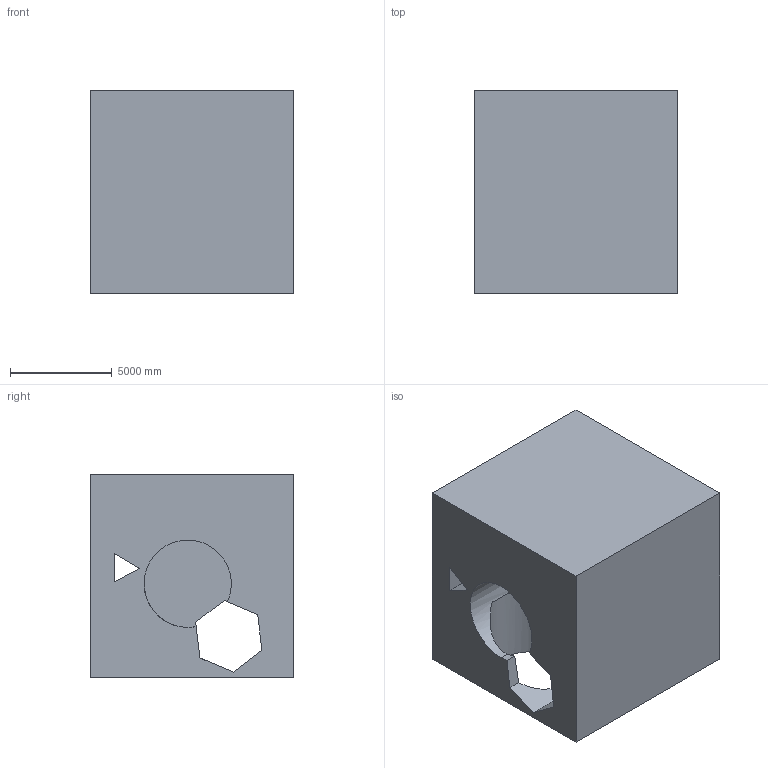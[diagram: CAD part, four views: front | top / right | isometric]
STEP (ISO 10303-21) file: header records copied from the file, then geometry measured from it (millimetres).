
FILE_DESCRIPTION (( 'STEP AP203' ), '1' );
FILE_NAME ('136.STEP', '2022-09-06T13:22:00', ( 'user' ), ( '' ), 'SwSTEP 2.0', 'SolidWorks 2021', '' );
FILE_SCHEMA (( 'CONFIG_CONTROL_DESIGN' ));
Length unit declared in the file: centimetre
Products named in the file (1): 136
Bounding box: 10000 x 10000 x 10000 mm (x, y, z)
Volume: 769053287001.8 mm3; surface area: 800494673.7 mm2
Topology: 1 solids, 1 shells, 24 faces, 69 edges, 46 vertices
Faces by surface type: plane 18, cylinder 6
Entity records: 1028 total; most frequent: CARTESIAN_POINT 318, ORIENTED_EDGE 138, DIRECTION 119, EDGE_CURVE 69, LINE 51, VECTOR 51, VERTEX_POINT 46, AXIS2_PLACEMENT_3D 34
